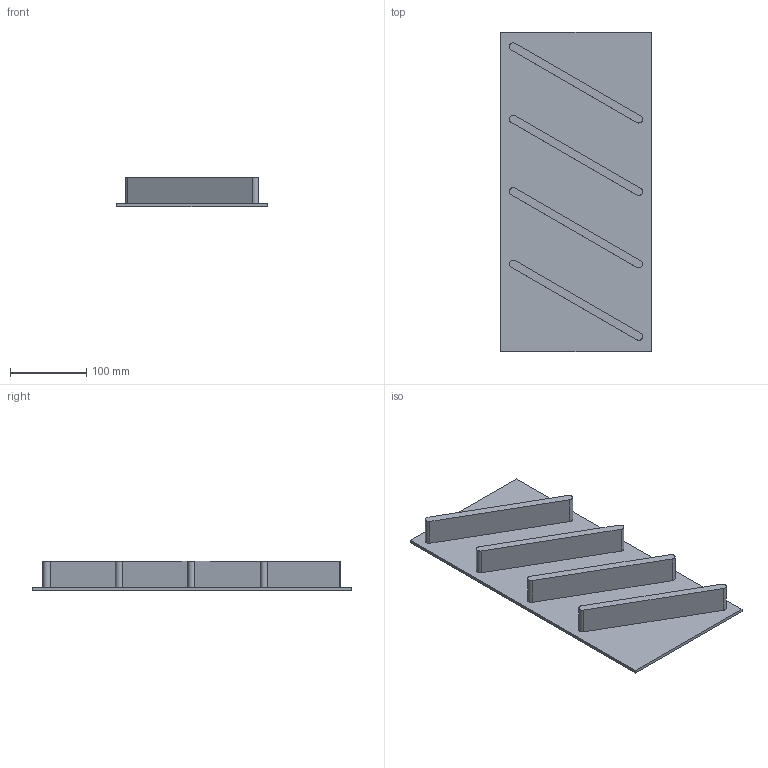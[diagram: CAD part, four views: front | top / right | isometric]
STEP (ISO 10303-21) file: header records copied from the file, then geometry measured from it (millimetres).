
FILE_DESCRIPTION (( 'STEP AP214' ), '1' );
FILE_NAME ('Besteckeinsatz.STEP', '2010-10-19T08:03:26', ( 'grass' ), ( '' ), 'SwSTEP 2.0', 'SolidWorks 2010', '' );
FILE_SCHEMA (( 'AUTOMOTIVE_DESIGN' ));
Length unit declared in the file: millimetre
Products named in the file (1): Besteckeinsatz
Bounding box: 197 x 419 x 39 mm (x, y, z)
Volume: 607167.6 mm3; surface area: 227612.2 mm2
Topology: 1 solids, 1 shells, 30 faces, 72 edges, 48 vertices
Faces by surface type: plane 18, cylinder 12
Entity records: 914 total; most frequent: DIRECTION 158, CARTESIAN_POINT 151, ORIENTED_EDGE 144, EDGE_CURVE 72, AXIS2_PLACEMENT_3D 55, VERTEX_POINT 48, LINE 48, VECTOR 48
